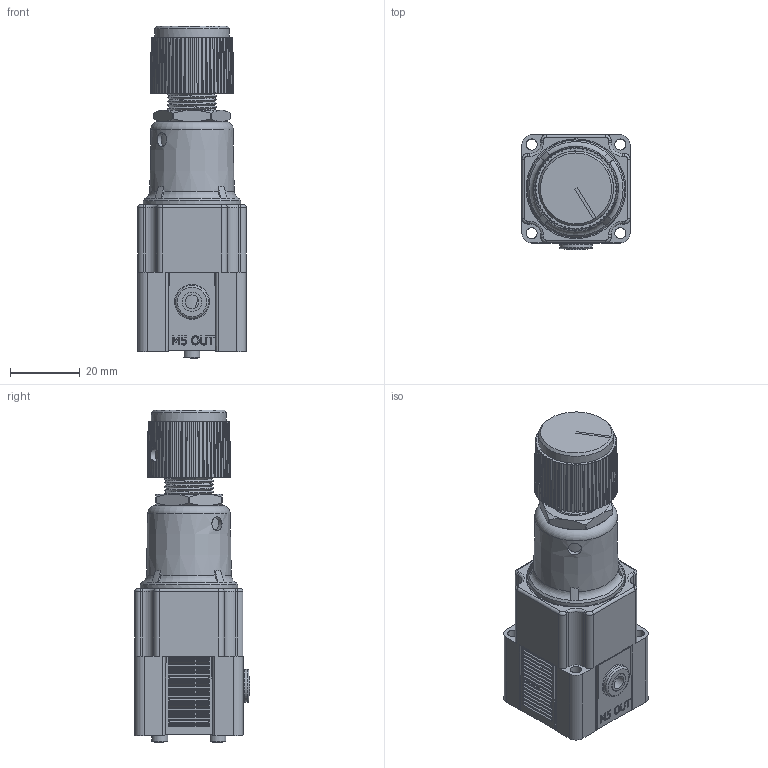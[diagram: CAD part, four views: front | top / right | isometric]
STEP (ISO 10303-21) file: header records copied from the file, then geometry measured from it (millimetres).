
FILE_DESCRIPTION(/* description */ (''),/* implementation_level */ '2;1');
FILE_NAME(/* name */ 'K:\Normteile INVENTOR\Air-Logic\Regulators\R6000\PR 6___ S M5 Threads Out.igs.ipt.stp',/* time_stamp */ '2020-05-27T10:56:38+02:00',/* author */ ('Paul'),/* organization */ (''),/* preprocessor_version */ 'ST-DEVELOPER v18',/* originating_system */ 'Autodesk Inventor 2020',/* authorisation */ '');
FILE_SCHEMA (('AUTOMOTIVE_DESIGN { 1 0 10303 214 3 1 1 }'));
Length unit declared in the file: inch
Products named in the file (1): PR 6___ S M5 Threads Out.igs
Bounding box: 31.19 x 32.97 x 95.02 mm (x, y, z)
Volume: 56153.3 mm3; surface area: 17163.8 mm2
Topology: 1 solids, 1 shells, 1016 faces, 2635 edges, 1700 vertices
Faces by surface type: plane 495, cylinder 347, cone 83, bspline 58, torus 33
Full cylindrical faces by diameter (mm): 1.194 x1, 2.032 x1, 3.124 x2, 3.175 x8, 3.962 x1, 3.988 x1, 4.064 x1, 4.521 x2, 5.486 x1, 6.248 x1, 8.382 x2, 9.169 x1, 9.398 x1, 9.652 x1, 12.903 x1, 19.406 x1, 21.476 x1, 27.94 x1, 28.575 x1
Entity records: 37561 total; most frequent: CARTESIAN_POINT 11264, DIRECTION 5407, ORIENTED_EDGE 5270, EDGE_CURVE 2635, AXIS2_PLACEMENT_3D 2070, VERTEX_POINT 1700, LINE 1267, VECTOR 1267
